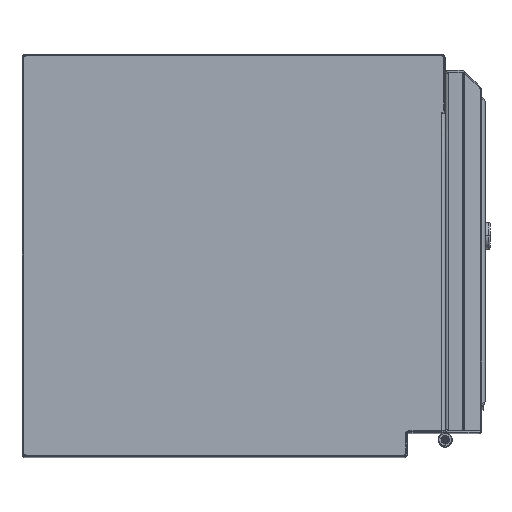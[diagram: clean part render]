
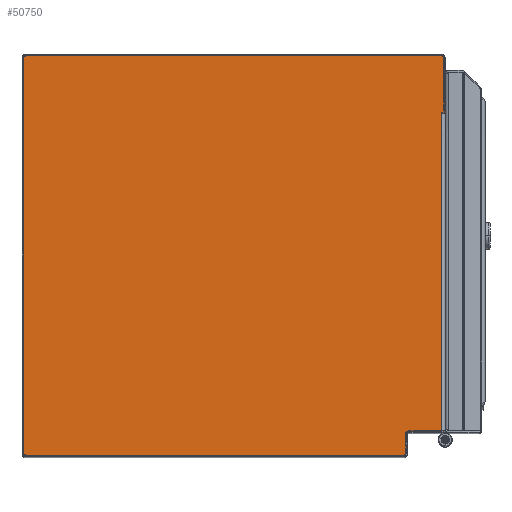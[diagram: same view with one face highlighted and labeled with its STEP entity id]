
A CAD part, top view. The second image highlights one B-rep face of the part: STEP entity #50750.
In plain terms, the highlighted planar face has unit normal (0, 0, 1) as drawn and (-1, 0, 0) by its records, which use the part's own axes.
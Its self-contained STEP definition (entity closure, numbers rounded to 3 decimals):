
#1221 = CARTESIAN_POINT ( 'NONE',  ( 0., 360., -124. ) ) ;
#1370 = VERTEX_POINT ( 'NONE', #7998 ) ;
#2481 = CARTESIAN_POINT ( 'NONE',  ( 0., -4., 172. ) ) ;
#2703 = AXIS2_PLACEMENT_3D ( 'NONE', #5650, #24787, #49835 ) ;
#2940 = CARTESIAN_POINT ( 'NONE',  ( 0., 329., 155. ) ) ;
#2967 = ORIENTED_EDGE ( 'NONE', *, *, #31987, .T. ) ;
#3158 = CARTESIAN_POINT ( 'NONE',  ( 0., 360., 153. ) ) ;
#3234 = EDGE_CURVE ( 'NONE', #72247, #26064, #20663, .T. ) ;
#3510 = ORIENTED_EDGE ( 'NONE', *, *, #70942, .T. ) ;
#3742 = VERTEX_POINT ( 'NONE', #40514 ) ;
#3871 = ORIENTED_EDGE ( 'NONE', *, *, #38654, .T. ) ;
#3964 = DIRECTION ( 'NONE',  ( 0., 0., 1. ) ) ;
#4329 = DIRECTION ( 'NONE',  ( 0., 0., -1. ) ) ;
#4573 = CARTESIAN_POINT ( 'NONE',  ( 0., 329., 153. ) ) ;
#5224 = VECTOR ( 'NONE', #62795, 1000. ) ;
#5290 = ORIENTED_EDGE ( 'NONE', *, *, #67685, .T. ) ;
#5429 = VECTOR ( 'NONE', #56912, 1000. ) ;
#5650 = CARTESIAN_POINT ( 'NONE',  ( 0., 0., 170. ) ) ;
#6501 = EDGE_CURVE ( 'NONE', #64403, #3742, #49964, .T. ) ;
#6566 = ORIENTED_EDGE ( 'NONE', *, *, #31384, .T. ) ;
#7134 = ORIENTED_EDGE ( 'NONE', *, *, #75323, .T. ) ;
#7998 = CARTESIAN_POINT ( 'NONE',  ( 0., 362., -172. ) ) ;
#8190 = DIRECTION ( 'NONE',  ( 0., 0., -1. ) ) ;
#8853 = VECTOR ( 'NONE', #65931, 1000. ) ;
#9309 = AXIS2_PLACEMENT_3D ( 'NONE', #70437, #34209, #3964 ) ;
#11983 = LINE ( 'NONE', #68130, #38574 ) ;
#12115 = CARTESIAN_POINT ( 'NONE',  ( 0., -2., -174. ) ) ;
#12314 = VECTOR ( 'NONE', #40107, 1000. ) ;
#12726 = ORIENTED_EDGE ( 'NONE', *, *, #50947, .T. ) ;
#14613 = ORIENTED_EDGE ( 'NONE', *, *, #50949, .T. ) ;
#14650 = CARTESIAN_POINT ( 'NONE',  ( 0., 360., -172. ) ) ;
#15641 = AXIS2_PLACEMENT_3D ( 'NONE', #32123, #51571, #56395 ) ;
#16064 = VERTEX_POINT ( 'NONE', #2481 ) ;
#16438 = DIRECTION ( 'NONE',  ( 0., 1., 0. ) ) ;
#19209 = PLANE ( 'NONE',  #2703 ) ;
#19246 = AXIS2_PLACEMENT_3D ( 'NONE', #31732, #69523, #62398 ) ;
#19796 = CARTESIAN_POINT ( 'NONE',  ( 0., -4., 174. ) ) ;
#20255 = DIRECTION ( 'NONE',  ( -1., 0., 0. ) ) ;
#20292 = CARTESIAN_POINT ( 'NONE',  ( 0., 360., 170. ) ) ;
#20663 = CIRCLE ( 'NONE', #37133, 2. ) ;
#21028 = DIRECTION ( 'NONE',  ( 0., 0., 1. ) ) ;
#21361 = CARTESIAN_POINT ( 'NONE',  ( 0., 0., -124. ) ) ;
#22021 = CIRCLE ( 'NONE', #15641, 2. ) ;
#22219 = VERTEX_POINT ( 'NONE', #78453 ) ;
#22589 = LINE ( 'NONE', #35281, #8853 ) ;
#23578 = DIRECTION ( 'NONE',  ( 0., 0., 1. ) ) ;
#24437 = VECTOR ( 'NONE', #29233, 1000. ) ;
#24787 = DIRECTION ( 'NONE',  ( -1., 0., 0. ) ) ;
#25144 = EDGE_CURVE ( 'NONE', #39039, #74883, #25856, .T. ) ;
#25856 = CIRCLE ( 'NONE', #9309, 2. ) ;
#26064 = VERTEX_POINT ( 'NONE', #64210 ) ;
#26247 = LINE ( 'NONE', #20292, #12314 ) ;
#26259 = LINE ( 'NONE', #44173, #5429 ) ;
#29233 = DIRECTION ( 'NONE',  ( 0., 1., 0. ) ) ;
#29648 = EDGE_CURVE ( 'NONE', #56584, #39039, #11983, .T. ) ;
#29940 = ORIENTED_EDGE ( 'NONE', *, *, #6501, .T. ) ;
#31245 = VERTEX_POINT ( 'NONE', #47248 ) ;
#31384 = EDGE_CURVE ( 'NONE', #78458, #31245, #44441, .T. ) ;
#31732 = CARTESIAN_POINT ( 'NONE',  ( 0., 327., 172. ) ) ;
#31987 = EDGE_CURVE ( 'NONE', #74883, #16064, #61716, .T. ) ;
#32123 = CARTESIAN_POINT ( 'NONE',  ( 0., -2., 172. ) ) ;
#32986 = CIRCLE ( 'NONE', #60964, 2. ) ;
#33210 = CIRCLE ( 'NONE', #19246, 2. ) ;
#33220 = CARTESIAN_POINT ( 'NONE',  ( 0., 360., 153. ) ) ;
#33676 = EDGE_LOOP ( 'NONE', ( #46902, #55848, #40056, #65961, #2967, #3871, #6566, #12726, #7134, #53332, #77615, #29940, #3510, #5290, #14613 ) ) ;
#34209 = DIRECTION ( 'NONE',  ( -1., 0., 0. ) ) ;
#35281 = CARTESIAN_POINT ( 'NONE',  ( 0., 362., -124.5 ) ) ;
#35373 = LINE ( 'NONE', #77947, #38721 ) ;
#36655 = EDGE_CURVE ( 'NONE', #1370, #56584, #32986, .T. ) ;
#36782 = CARTESIAN_POINT ( 'NONE',  ( 0., 362., -124. ) ) ;
#36845 = EDGE_CURVE ( 'NONE', #46186, #1370, #22589, .T. ) ;
#37133 = AXIS2_PLACEMENT_3D ( 'NONE', #59430, #64989, #23578 ) ;
#38477 = VECTOR ( 'NONE', #16438, 1000. ) ;
#38574 = VECTOR ( 'NONE', #62176, 1000. ) ;
#38654 = EDGE_CURVE ( 'NONE', #16064, #78458, #22021, .T. ) ;
#38721 = VECTOR ( 'NONE', #4329, 1000. ) ;
#38867 = LINE ( 'NONE', #21361, #5224 ) ;
#39039 = VERTEX_POINT ( 'NONE', #12115 ) ;
#40056 = ORIENTED_EDGE ( 'NONE', *, *, #29648, .T. ) ;
#40107 = DIRECTION ( 'NONE',  ( 0., 0., -1. ) ) ;
#40514 = CARTESIAN_POINT ( 'NONE',  ( 0., 360., 152.5 ) ) ;
#43338 = DIRECTION ( 'NONE',  ( 0., 0., 1. ) ) ;
#44173 = CARTESIAN_POINT ( 'NONE',  ( 0., 360., 0. ) ) ;
#44441 = LINE ( 'NONE', #19796, #38477 ) ;
#45390 = CARTESIAN_POINT ( 'NONE',  ( 0., -4., -172. ) ) ;
#46186 = VERTEX_POINT ( 'NONE', #36782 ) ;
#46902 = ORIENTED_EDGE ( 'NONE', *, *, #36845, .T. ) ;
#47248 = CARTESIAN_POINT ( 'NONE',  ( 0., 327., 174. ) ) ;
#49714 = CARTESIAN_POINT ( 'NONE',  ( 0., -4., -174. ) ) ;
#49835 = DIRECTION ( 'NONE',  ( 0., 0., 1. ) ) ;
#49964 = LINE ( 'NONE', #33220, #53012 ) ;
#50750 = ADVANCED_FACE ( 'NONE', ( #61424 ), #19209, .T. ) ;
#50947 = EDGE_CURVE ( 'NONE', #31245, #22219, #33210, .T. ) ;
#50949 = EDGE_CURVE ( 'NONE', #60920, #46186, #38867, .T. ) ;
#51571 = DIRECTION ( 'NONE',  ( -1., 0., 0. ) ) ;
#52646 = CARTESIAN_POINT ( 'NONE',  ( 0., -2., 174. ) ) ;
#53012 = VECTOR ( 'NONE', #8190, 1000. ) ;
#53332 = ORIENTED_EDGE ( 'NONE', *, *, #3234, .T. ) ;
#55848 = ORIENTED_EDGE ( 'NONE', *, *, #36655, .T. ) ;
#56213 = CARTESIAN_POINT ( 'NONE',  ( 0., 360., -123.5 ) ) ;
#56395 = DIRECTION ( 'NONE',  ( 0., 0., 1. ) ) ;
#56584 = VERTEX_POINT ( 'NONE', #57838 ) ;
#56912 = DIRECTION ( 'NONE',  ( 0., 0., -1. ) ) ;
#57838 = CARTESIAN_POINT ( 'NONE',  ( 0., 360., -174. ) ) ;
#59430 = CARTESIAN_POINT ( 'NONE',  ( 0., 331., 155. ) ) ;
#60920 = VERTEX_POINT ( 'NONE', #1221 ) ;
#60964 = AXIS2_PLACEMENT_3D ( 'NONE', #14650, #20255, #21028 ) ;
#61424 = FACE_OUTER_BOUND ( 'NONE', #33676, .T. ) ;
#61716 = LINE ( 'NONE', #49714, #78419 ) ;
#62176 = DIRECTION ( 'NONE',  ( 0., -1., 0. ) ) ;
#62398 = DIRECTION ( 'NONE',  ( 0., 0., 1. ) ) ;
#62795 = DIRECTION ( 'NONE',  ( 0., 1., 0. ) ) ;
#64210 = CARTESIAN_POINT ( 'NONE',  ( 0., 331., 153. ) ) ;
#64403 = VERTEX_POINT ( 'NONE', #3158 ) ;
#64989 = DIRECTION ( 'NONE',  ( 1., 0., 0. ) ) ;
#65931 = DIRECTION ( 'NONE',  ( 0., 0., -1. ) ) ;
#65961 = ORIENTED_EDGE ( 'NONE', *, *, #25144, .T. ) ;
#66642 = EDGE_CURVE ( 'NONE', #26064, #64403, #77412, .T. ) ;
#67685 = EDGE_CURVE ( 'NONE', #71451, #60920, #26259, .T. ) ;
#68130 = CARTESIAN_POINT ( 'NONE',  ( 0., 362., -174. ) ) ;
#69523 = DIRECTION ( 'NONE',  ( -1., 0., 0. ) ) ;
#70437 = CARTESIAN_POINT ( 'NONE',  ( 0., -2., -172. ) ) ;
#70942 = EDGE_CURVE ( 'NONE', #3742, #71451, #26247, .T. ) ;
#71451 = VERTEX_POINT ( 'NONE', #56213 ) ;
#72247 = VERTEX_POINT ( 'NONE', #2940 ) ;
#74883 = VERTEX_POINT ( 'NONE', #45390 ) ;
#75323 = EDGE_CURVE ( 'NONE', #22219, #72247, #35373, .T. ) ;
#77412 = LINE ( 'NONE', #4573, #24437 ) ;
#77615 = ORIENTED_EDGE ( 'NONE', *, *, #66642, .T. ) ;
#77947 = CARTESIAN_POINT ( 'NONE',  ( 0., 329., 174. ) ) ;
#78419 = VECTOR ( 'NONE', #43338, 1000. ) ;
#78453 = CARTESIAN_POINT ( 'NONE',  ( 0., 329., 172. ) ) ;
#78458 = VERTEX_POINT ( 'NONE', #52646 ) ;
